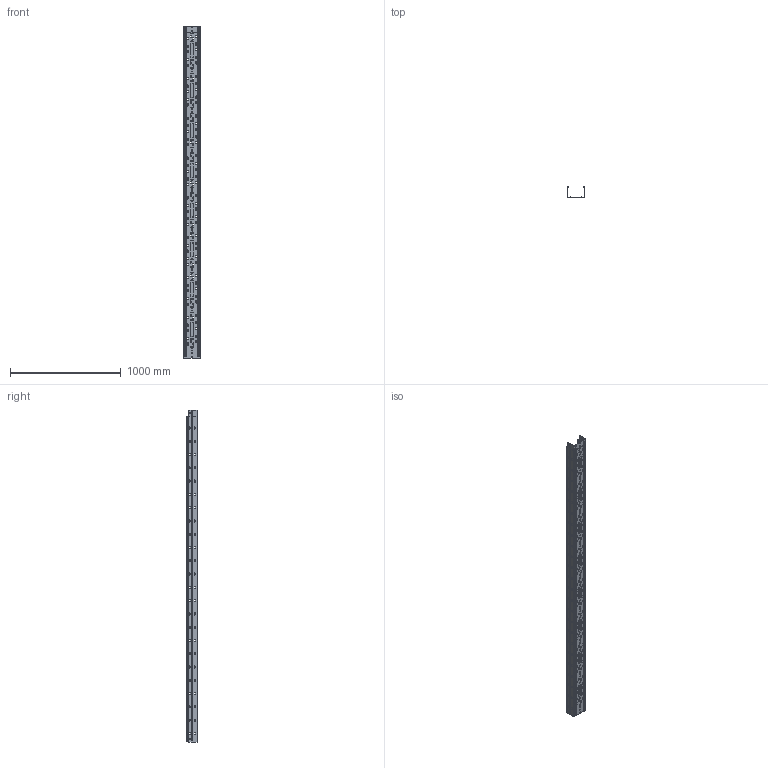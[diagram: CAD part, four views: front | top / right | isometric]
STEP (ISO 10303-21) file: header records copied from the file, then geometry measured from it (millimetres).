
FILE_DESCRIPTION (( 'STEP AP203' ), '1' );
FILE_NAME ('ERE 150x100 150x100.step', '2023-07-27T17:22:23', ( '' ), ( '' ), 'SwSTEP 2.0', 'SolidWorks 2022', '' );
FILE_SCHEMA (( 'CONFIG_CONTROL_DESIGN' ));
Products named in the file (1): ERE 150x100 150x100
Bounding box: 150 x 100.8 x 3000 mm (x, y, z)
Volume: 575427.2 mm3; surface area: 2095587.4 mm2
Topology: 1 solids, 1 shells, 11454 faces, 33828 edges, 22456 vertices
Faces by surface type: plane 10416, cylinder 934, torus 64, cone 36, bspline 4
Entity records: 377079 total; most frequent: CARTESIAN_POINT 68049, ORIENTED_EDGE 67656, DIRECTION 58604, EDGE_CURVE 33828, LINE 31782, VECTOR 31782, VERTEX_POINT 22456, AXIS2_PLACEMENT_3D 13411
